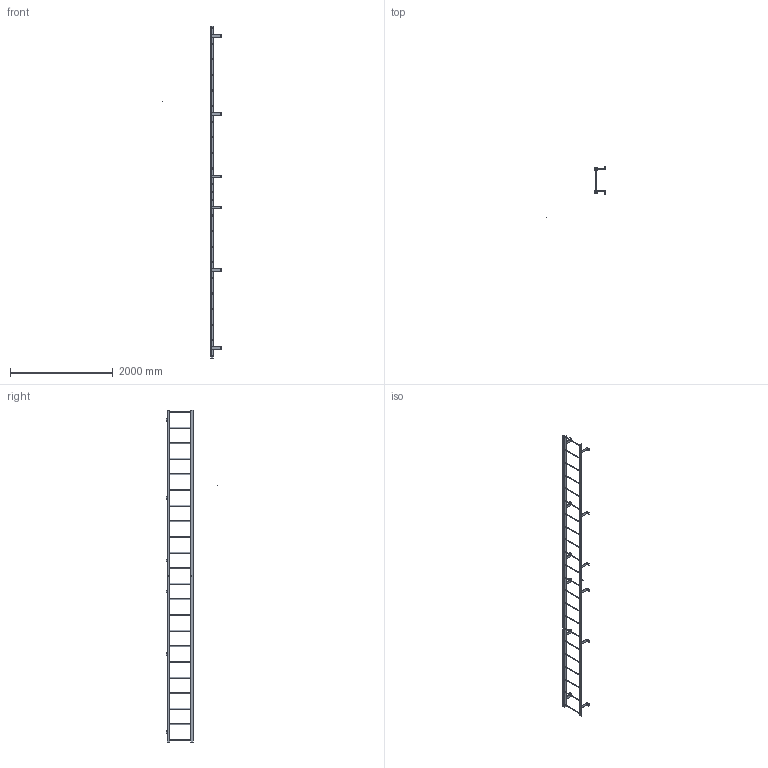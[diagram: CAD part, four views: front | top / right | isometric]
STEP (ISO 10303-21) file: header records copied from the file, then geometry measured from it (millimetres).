
FILE_DESCRIPTION(/* description */ (''),/* implementation_level */ '2;1');
FILE_NAME(/* name */ 'P:\MIKEL & KAREN\D0570336 F22S SIMPLIFIED PART.stp',/* time_stamp */ '2018-07-03T08:27:41-04:00',/* author */ ('stephanie'),/* organization */ (''),/* preprocessor_version */ 'ST-DEVELOPER v16.1',/* originating_system */ 'Autodesk Inventor 2016',/* authorisation */ '');
FILE_SCHEMA (('AUTOMOTIVE_DESIGN { 1 0 10303 214 3 1 1 }'));
Length unit declared in the file: centimetre
Products named in the file (1): D0570336 F22S SIMPLIFIED PART
Bounding box: 1142.02 x 997.16 x 6477 mm (x, y, z)
Volume: 11372978.4 mm3; surface area: 3415317.2 mm2
Topology: 25 solids, 25 shells, 341 faces, 907 edges, 608 vertices
Faces by surface type: plane 200, cylinder 141
Full cylindrical faces by diameter (mm): 0.254 x1, 14.287 x14, 19.05 x22, 22.225 x44
Entity records: 10360 total; most frequent: DIRECTION 1758, CARTESIAN_POINT 1660, ORIENTED_EDGE 1536, EDGE_CURVE 768, AXIS2_PLACEMENT_3D 648, VERTEX_POINT 550, EDGE_LOOP 538, LINE 462
